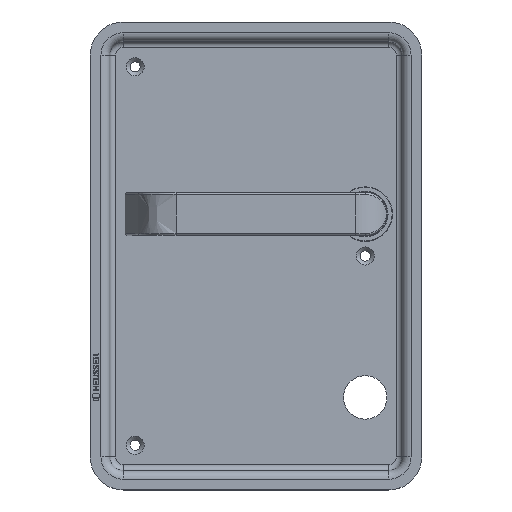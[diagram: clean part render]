
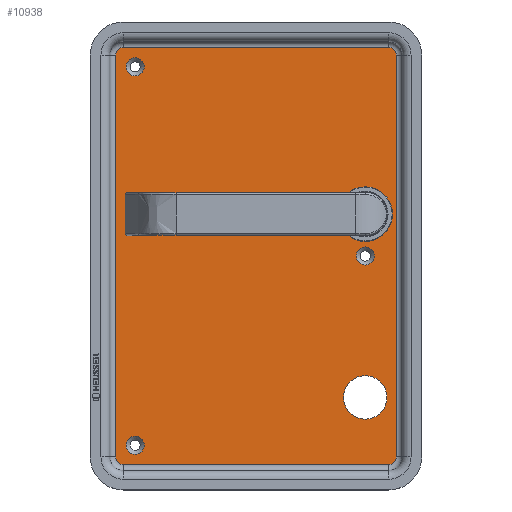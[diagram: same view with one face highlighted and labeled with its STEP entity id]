
A CAD part, top view. The second image highlights one B-rep face of the part: STEP entity #10938.
In plain terms, the highlighted planar face has unit normal (0, 0, 1).
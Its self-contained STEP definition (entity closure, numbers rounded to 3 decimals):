
#679=LINE('',#14686,#1634);
#681=LINE('',#14704,#1636);
#682=LINE('',#14707,#1637);
#684=LINE('',#14724,#1639);
#1634=VECTOR('',#12353,10.);
#1636=VECTOR('',#12375,10.);
#1637=VECTOR('',#12378,10.);
#1639=VECTOR('',#12400,10.);
#2673=FACE_BOUND('',#3469,.T.);
#2674=FACE_BOUND('',#3470,.T.);
#2675=FACE_BOUND('',#3471,.T.);
#2676=FACE_BOUND('',#3472,.T.);
#2677=FACE_BOUND('',#3473,.T.);
#2831=FACE_OUTER_BOUND('',#3468,.T.);
#3468=EDGE_LOOP('',(#7207,#7208,#7209,#7210,#7211,#7212,#7213,#7214));
#3469=EDGE_LOOP('',(#7215));
#3470=EDGE_LOOP('',(#7216));
#3471=EDGE_LOOP('',(#7217));
#3472=EDGE_LOOP('',(#7218));
#3473=EDGE_LOOP('',(#7219));
#4115=CIRCLE('',#11557,4.);
#4116=CIRCLE('',#11559,4.);
#4123=CIRCLE('',#11569,4.);
#4124=CIRCLE('',#11571,4.);
#4173=CIRCLE('',#11671,4.65);
#4174=CIRCLE('',#11673,4.65);
#4175=CIRCLE('',#11675,14.);
#4176=CIRCLE('',#11676,11.15);
#4177=CIRCLE('',#11677,4.65);
#4314=VERTEX_POINT('',#14680);
#4316=VERTEX_POINT('',#14684);
#4318=VERTEX_POINT('',#14690);
#4319=VERTEX_POINT('',#14694);
#4322=VERTEX_POINT('',#14702);
#4323=VERTEX_POINT('',#14706);
#4326=VERTEX_POINT('',#14714);
#4327=VERTEX_POINT('',#14718);
#4388=VERTEX_POINT('',#14936);
#4389=VERTEX_POINT('',#14939);
#4390=VERTEX_POINT('',#14942);
#4391=VERTEX_POINT('',#14944);
#4392=VERTEX_POINT('',#14946);
#5366=EDGE_CURVE('',#4316,#4314,#679,.T.);
#5369=EDGE_CURVE('',#4318,#4316,#4115,.T.);
#5370=EDGE_CURVE('',#4314,#4319,#4116,.T.);
#5375=EDGE_CURVE('',#4322,#4318,#681,.T.);
#5376=EDGE_CURVE('',#4319,#4323,#682,.T.);
#5381=EDGE_CURVE('',#4326,#4322,#4123,.T.);
#5382=EDGE_CURVE('',#4323,#4327,#4124,.T.);
#5385=EDGE_CURVE('',#4327,#4326,#684,.T.);
#5486=EDGE_CURVE('',#4388,#4388,#4173,.T.);
#5487=EDGE_CURVE('',#4389,#4389,#4174,.T.);
#5488=EDGE_CURVE('',#4390,#4390,#4175,.T.);
#5489=EDGE_CURVE('',#4391,#4391,#4176,.T.);
#5490=EDGE_CURVE('',#4392,#4392,#4177,.T.);
#7207=ORIENTED_EDGE('',*,*,#5385,.F.);
#7208=ORIENTED_EDGE('',*,*,#5382,.F.);
#7209=ORIENTED_EDGE('',*,*,#5376,.F.);
#7210=ORIENTED_EDGE('',*,*,#5370,.F.);
#7211=ORIENTED_EDGE('',*,*,#5366,.F.);
#7212=ORIENTED_EDGE('',*,*,#5369,.F.);
#7213=ORIENTED_EDGE('',*,*,#5375,.F.);
#7214=ORIENTED_EDGE('',*,*,#5381,.F.);
#7215=ORIENTED_EDGE('',*,*,#5488,.T.);
#7216=ORIENTED_EDGE('',*,*,#5489,.T.);
#7217=ORIENTED_EDGE('',*,*,#5487,.F.);
#7218=ORIENTED_EDGE('',*,*,#5486,.F.);
#7219=ORIENTED_EDGE('',*,*,#5490,.F.);
#9970=PLANE('',#11674);
#10938=ADVANCED_FACE('',(#2831,#2673,#2674,#2675,#2676,#2677),#9970,.T.);
#11557=AXIS2_PLACEMENT_3D('',#14692,#12360,#12361);
#11559=AXIS2_PLACEMENT_3D('',#14695,#12364,#12365);
#11569=AXIS2_PLACEMENT_3D('',#14716,#12388,#12389);
#11571=AXIS2_PLACEMENT_3D('',#14719,#12392,#12393);
#11671=AXIS2_PLACEMENT_3D('',#14937,#12645,#12646);
#11673=AXIS2_PLACEMENT_3D('',#14940,#12649,#12650);
#11674=AXIS2_PLACEMENT_3D('',#14941,#12651,#12652);
#11675=AXIS2_PLACEMENT_3D('',#14943,#12653,#12654);
#11676=AXIS2_PLACEMENT_3D('',#14945,#12655,#12656);
#11677=AXIS2_PLACEMENT_3D('',#14947,#12657,#12658);
#12353=DIRECTION('',(0.,-1.,0.));
#12360=DIRECTION('center_axis',(0.,0.,-1.));
#12361=DIRECTION('ref_axis',(0.707,0.707,0.));
#12364=DIRECTION('center_axis',(0.,0.,-1.));
#12365=DIRECTION('ref_axis',(0.707,-0.707,0.));
#12375=DIRECTION('',(1.,0.,0.));
#12378=DIRECTION('',(-1.,0.,0.));
#12388=DIRECTION('center_axis',(0.,0.,-1.));
#12389=DIRECTION('ref_axis',(-0.707,0.707,0.));
#12392=DIRECTION('center_axis',(0.,0.,-1.));
#12393=DIRECTION('ref_axis',(-0.707,-0.707,0.));
#12400=DIRECTION('',(0.,1.,0.));
#12645=DIRECTION('center_axis',(0.,0.,1.));
#12646=DIRECTION('ref_axis',(-1.,0.,0.));
#12649=DIRECTION('center_axis',(0.,0.,1.));
#12650=DIRECTION('ref_axis',(-1.,0.,0.));
#12651=DIRECTION('center_axis',(0.,0.,1.));
#12652=DIRECTION('ref_axis',(1.,0.,0.));
#12653=DIRECTION('center_axis',(0.,0.,-1.));
#12654=DIRECTION('ref_axis',(1.,0.,0.));
#12655=DIRECTION('center_axis',(0.,0.,-1.));
#12656=DIRECTION('ref_axis',(-1.,0.,0.));
#12657=DIRECTION('center_axis',(0.,0.,1.));
#12658=DIRECTION('ref_axis',(-1.,0.,0.));
#14680=CARTESIAN_POINT('',(70.865,-93.546,-5.5));
#14684=CARTESIAN_POINT('',(70.865,112.454,-5.5));
#14686=CARTESIAN_POINT('',(70.865,60.954,-5.5));
#14690=CARTESIAN_POINT('',(66.865,116.454,-5.5));
#14692=CARTESIAN_POINT('Origin',(66.865,112.454,-5.5));
#14694=CARTESIAN_POINT('',(66.865,-97.546,-5.5));
#14695=CARTESIAN_POINT('Origin',(66.865,-93.546,-5.5));
#14702=CARTESIAN_POINT('',(-69.135,116.454,-5.5));
#14704=CARTESIAN_POINT('',(-35.135,116.454,-5.5));
#14706=CARTESIAN_POINT('',(-69.135,-97.546,-5.5));
#14707=CARTESIAN_POINT('',(32.865,-97.546,-5.5));
#14714=CARTESIAN_POINT('',(-73.135,112.454,-5.5));
#14716=CARTESIAN_POINT('Origin',(-69.135,112.454,-5.5));
#14718=CARTESIAN_POINT('',(-73.135,-93.546,-5.5));
#14719=CARTESIAN_POINT('Origin',(-69.135,-93.546,-5.5));
#14724=CARTESIAN_POINT('',(-73.135,-42.046,-5.5));
#14936=CARTESIAN_POINT('',(-58.485,106.454,-5.5));
#14937=CARTESIAN_POINT('Origin',(-63.135,106.454,-5.5));
#14939=CARTESIAN_POINT('',(59.515,9.454,-5.5));
#14940=CARTESIAN_POINT('Origin',(54.865,9.454,-5.5));
#14941=CARTESIAN_POINT('Origin',(-1.135,9.454,-5.5));
#14942=CARTESIAN_POINT('',(40.865,30.954,-5.5));
#14943=CARTESIAN_POINT('Origin',(54.865,30.954,-5.5));
#14944=CARTESIAN_POINT('',(66.015,-63.046,-5.5));
#14945=CARTESIAN_POINT('Origin',(54.865,-63.046,-5.5));
#14946=CARTESIAN_POINT('',(-58.485,-87.546,-5.5));
#14947=CARTESIAN_POINT('Origin',(-63.135,-87.546,-5.5));
